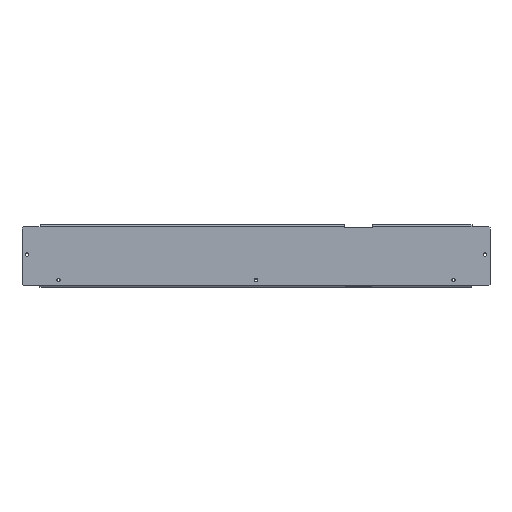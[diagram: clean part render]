
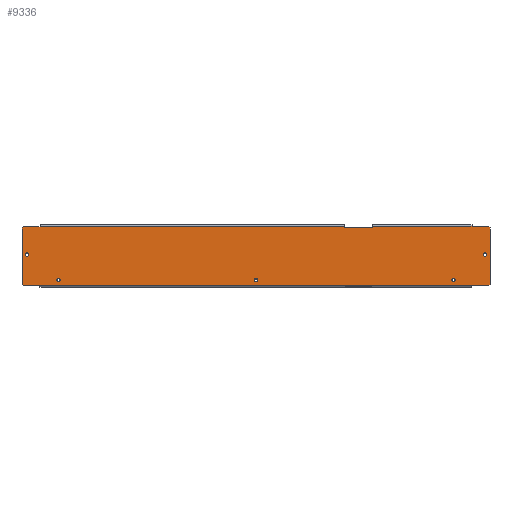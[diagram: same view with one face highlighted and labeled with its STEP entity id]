
A CAD part, top view. The second image highlights one B-rep face of the part: STEP entity #9336.
In plain terms, the highlighted planar face has unit normal (0, 0, 1).
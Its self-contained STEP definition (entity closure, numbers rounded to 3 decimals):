
#7161=CARTESIAN_POINT(' ',(309.75,-38.,0.));
#7162=VERTEX_POINT(' ',#7161);
#7176=CARTESIAN_POINT(' ',(312.5,-38.,0.));
#7181=DIRECTION(' ',(0.,-0.,1.));
#7186=DIRECTION(' ',(-1.,0.,0.));
#7191=AXIS2_PLACEMENT_3D(' ',#7176,#7181,#7186);
#7196=CIRCLE('',#7191,2.75);
#7201=CARTESIAN_POINT(' ',(315.25,-38.,0.));
#7202=VERTEX_POINT(' ',#7201);
#7206=EDGE_CURVE(' ',#7162,#7202,#7196,.T.);
#8311=CARTESIAN_POINT(' ',(312.5,-38.,0.));
#8316=DIRECTION(' ',(0.,0.,1.));
#8321=DIRECTION(' ',(1.,0.,0.));
#8326=AXIS2_PLACEMENT_3D(' ',#8311,#8316,#8321);
#8331=CIRCLE('',#8326,2.75);
#8336=EDGE_CURVE(' ',#7202,#7162,#8331,.T.);
#8361=DIRECTION(' ',(0.,0.,1.));
#8366=CARTESIAN_POINT(' ',(-370.5,-46.5,0.));
#8371=DIRECTION(' ',(1.,0.,-0.));
#8376=AXIS2_PLACEMENT_3D(' ',#8366,#8361,#8371);
#8381=PLANE('NONE',#8376);
#8386=CARTESIAN_POINT(' ',(184.5,45.5,0.));
#8391=DIRECTION(' ',(0.,1.,0.));
#8396=VECTOR(' ',#8391,1.);
#8401=LINE('',#8386,#8396);
#8406=CARTESIAN_POINT(' ',(184.5,45.5,0.));
#8407=VERTEX_POINT(' ',#8406);
#8411=CARTESIAN_POINT(' ',(184.5,47.4,0.));
#8412=VERTEX_POINT(' ',#8411);
#8416=EDGE_CURVE(' ',#8407,#8412,#8401,.T.);
#8421=ORIENTED_EDGE(' ',*,*,#8416,.F.);
#8426=CARTESIAN_POINT(' ',(139.5,45.5,0.));
#8431=DIRECTION(' ',(1.,0.,0.));
#8436=VECTOR(' ',#8431,1.);
#8441=LINE('',#8426,#8436);
#8446=CARTESIAN_POINT(' ',(139.5,45.5,0.));
#8447=VERTEX_POINT(' ',#8446);
#8451=EDGE_CURVE(' ',#8447,#8407,#8441,.T.);
#8456=ORIENTED_EDGE(' ',*,*,#8451,.F.);
#8461=CARTESIAN_POINT(' ',(139.5,47.4,0.));
#8466=DIRECTION(' ',(0.,-1.,0.));
#8471=VECTOR(' ',#8466,1.);
#8476=LINE('',#8461,#8471);
#8481=CARTESIAN_POINT(' ',(139.5,47.4,0.));
#8482=VERTEX_POINT(' ',#8481);
#8486=EDGE_CURVE(' ',#8482,#8447,#8476,.T.);
#8491=ORIENTED_EDGE(' ',*,*,#8486,.F.);
#8496=CARTESIAN_POINT(' ',(139.5,47.4,0.));
#8501=DIRECTION(' ',(-1.,0.,0.));
#8506=VECTOR(' ',#8501,1.);
#8511=LINE('',#8496,#8506);
#8516=CARTESIAN_POINT(' ',(-342.,47.4,0.));
#8517=VERTEX_POINT(' ',#8516);
#8521=EDGE_CURVE(' ',#8482,#8517,#8511,.T.);
#8526=ORIENTED_EDGE(' ',*,*,#8521,.T.);
#8531=CARTESIAN_POINT(' ',(-342.,47.4,0.));
#8536=DIRECTION(' ',(0.,-1.,0.));
#8541=VECTOR(' ',#8536,1.);
#8546=LINE('',#8531,#8541);
#8551=CARTESIAN_POINT(' ',(-342.,46.5,0.));
#8552=VERTEX_POINT(' ',#8551);
#8556=EDGE_CURVE(' ',#8517,#8552,#8546,.T.);
#8561=ORIENTED_EDGE(' ',*,*,#8556,.T.);
#8566=CARTESIAN_POINT(' ',(-342.,46.5,0.));
#8571=DIRECTION(' ',(-1.,0.,0.));
#8576=VECTOR(' ',#8571,1.);
#8581=LINE('',#8566,#8576);
#8586=CARTESIAN_POINT(' ',(-368.5,46.5,0.));
#8587=VERTEX_POINT(' ',#8586);
#8591=EDGE_CURVE(' ',#8552,#8587,#8581,.T.);
#8596=ORIENTED_EDGE(' ',*,*,#8591,.T.);
#8601=CARTESIAN_POINT(' ',(-368.5,46.5,0.));
#8606=DIRECTION(' ',(-0.707,-0.707,0.));
#8611=VECTOR(' ',#8606,1.);
#8616=LINE('',#8601,#8611);
#8621=CARTESIAN_POINT(' ',(-370.5,44.5,0.));
#8622=VERTEX_POINT(' ',#8621);
#8626=EDGE_CURVE(' ',#8587,#8622,#8616,.T.);
#8631=ORIENTED_EDGE(' ',*,*,#8626,.T.);
#8636=CARTESIAN_POINT(' ',(-370.5,44.5,0.));
#8641=DIRECTION(' ',(0.,-1.,0.));
#8646=VECTOR(' ',#8641,1.);
#8651=LINE('',#8636,#8646);
#8656=CARTESIAN_POINT(' ',(-370.5,-44.5,0.));
#8657=VERTEX_POINT(' ',#8656);
#8661=EDGE_CURVE(' ',#8622,#8657,#8651,.T.);
#8666=ORIENTED_EDGE(' ',*,*,#8661,.T.);
#8671=CARTESIAN_POINT(' ',(-370.5,-44.5,0.));
#8676=DIRECTION(' ',(0.707,-0.707,0.));
#8681=VECTOR(' ',#8676,1.);
#8686=LINE('',#8671,#8681);
#8691=CARTESIAN_POINT(' ',(-368.5,-46.5,0.));
#8692=VERTEX_POINT(' ',#8691);
#8696=EDGE_CURVE(' ',#8657,#8692,#8686,.T.);
#8701=ORIENTED_EDGE(' ',*,*,#8696,.T.);
#8706=CARTESIAN_POINT(' ',(-368.5,-46.5,0.));
#8711=DIRECTION(' ',(1.,0.,0.));
#8716=VECTOR(' ',#8711,1.);
#8721=LINE('',#8706,#8716);
#8726=CARTESIAN_POINT(' ',(368.5,-46.5,0.));
#8727=VERTEX_POINT(' ',#8726);
#8731=EDGE_CURVE(' ',#8692,#8727,#8721,.T.);
#8736=ORIENTED_EDGE(' ',*,*,#8731,.T.);
#8741=CARTESIAN_POINT(' ',(368.5,-46.5,0.));
#8746=DIRECTION(' ',(0.707,0.707,0.));
#8751=VECTOR(' ',#8746,1.);
#8756=LINE('',#8741,#8751);
#8761=CARTESIAN_POINT(' ',(370.5,-44.5,0.));
#8762=VERTEX_POINT(' ',#8761);
#8766=EDGE_CURVE(' ',#8727,#8762,#8756,.T.);
#8771=ORIENTED_EDGE(' ',*,*,#8766,.T.);
#8776=CARTESIAN_POINT(' ',(370.5,-44.5,0.));
#8781=DIRECTION(' ',(0.,1.,0.));
#8786=VECTOR(' ',#8781,1.);
#8791=LINE('',#8776,#8786);
#8796=CARTESIAN_POINT(' ',(370.5,44.5,0.));
#8797=VERTEX_POINT(' ',#8796);
#8801=EDGE_CURVE(' ',#8762,#8797,#8791,.T.);
#8806=ORIENTED_EDGE(' ',*,*,#8801,.T.);
#8811=CARTESIAN_POINT(' ',(370.5,44.5,0.));
#8816=DIRECTION(' ',(-0.707,0.707,0.));
#8821=VECTOR(' ',#8816,1.);
#8826=LINE('',#8811,#8821);
#8831=CARTESIAN_POINT(' ',(368.5,46.5,0.));
#8832=VERTEX_POINT(' ',#8831);
#8836=EDGE_CURVE(' ',#8797,#8832,#8826,.T.);
#8841=ORIENTED_EDGE(' ',*,*,#8836,.T.);
#8846=CARTESIAN_POINT(' ',(368.5,46.5,0.));
#8851=DIRECTION(' ',(-1.,0.,0.));
#8856=VECTOR(' ',#8851,1.);
#8861=LINE('',#8846,#8856);
#8866=CARTESIAN_POINT(' ',(342.,46.5,0.));
#8867=VERTEX_POINT(' ',#8866);
#8871=EDGE_CURVE(' ',#8832,#8867,#8861,.T.);
#8876=ORIENTED_EDGE(' ',*,*,#8871,.T.);
#8881=CARTESIAN_POINT(' ',(342.,47.4,0.));
#8886=DIRECTION(' ',(0.,-1.,0.));
#8891=VECTOR(' ',#8886,1.);
#8896=LINE('',#8881,#8891);
#8901=CARTESIAN_POINT(' ',(342.,47.4,0.));
#8902=VERTEX_POINT(' ',#8901);
#8906=EDGE_CURVE(' ',#8902,#8867,#8896,.T.);
#8911=ORIENTED_EDGE(' ',*,*,#8906,.F.);
#8916=CARTESIAN_POINT(' ',(342.,47.4,0.));
#8921=DIRECTION(' ',(-1.,0.,0.));
#8926=VECTOR(' ',#8921,1.);
#8931=LINE('',#8916,#8926);
#8936=EDGE_CURVE(' ',#8902,#8412,#8931,.T.);
#8941=ORIENTED_EDGE(' ',*,*,#8936,.T.);
#8946=EDGE_LOOP(' ',(#8421,#8456,#8491,#8526,#8561,#8596,#8631,#8666,#8701,#8736,#8771,#8806,#8841,#8876,#8911,#8941));
#8951=FACE_OUTER_BOUND(' ',#8946,.T.);
#8956=ORIENTED_EDGE(' ',*,*,#8336,.F.);
#8961=ORIENTED_EDGE(' ',*,*,#7206,.F.);
#8966=EDGE_LOOP(' ',(#8956,#8961));
#8971=FACE_BOUND(' ',#8966,.T.);
#8976=CARTESIAN_POINT(' ',(0.,-38.,0.));
#8981=DIRECTION(' ',(0.,0.,1.));
#8986=DIRECTION(' ',(1.,0.,0.));
#8991=AXIS2_PLACEMENT_3D(' ',#8976,#8981,#8986);
#8996=CIRCLE('',#8991,2.75);
#9001=CARTESIAN_POINT(' ',(2.75,-38.,0.));
#9002=VERTEX_POINT(' ',#9001);
#9006=CARTESIAN_POINT(' ',(-2.75,-38.,0.));
#9007=VERTEX_POINT(' ',#9006);
#9011=EDGE_CURVE(' ',#9002,#9007,#8996,.T.);
#9016=ORIENTED_EDGE(' ',*,*,#9011,.F.);
#9021=CARTESIAN_POINT(' ',(0.,-38.,0.));
#9026=DIRECTION(' ',(0.,-0.,1.));
#9031=DIRECTION(' ',(-1.,0.,0.));
#9036=AXIS2_PLACEMENT_3D(' ',#9021,#9026,#9031);
#9041=CIRCLE('',#9036,2.75);
#9046=EDGE_CURVE(' ',#9007,#9002,#9041,.T.);
#9051=ORIENTED_EDGE(' ',*,*,#9046,.F.);
#9056=EDGE_LOOP(' ',(#9016,#9051));
#9061=FACE_BOUND(' ',#9056,.T.);
#9066=CARTESIAN_POINT(' ',(-312.5,-38.,0.));
#9071=DIRECTION(' ',(0.,0.,1.));
#9076=DIRECTION(' ',(1.,0.,0.));
#9081=AXIS2_PLACEMENT_3D(' ',#9066,#9071,#9076);
#9086=CIRCLE('',#9081,2.75);
#9091=CARTESIAN_POINT(' ',(-309.75,-38.,0.));
#9092=VERTEX_POINT(' ',#9091);
#9096=CARTESIAN_POINT(' ',(-315.25,-38.,0.));
#9097=VERTEX_POINT(' ',#9096);
#9101=EDGE_CURVE(' ',#9092,#9097,#9086,.T.);
#9106=ORIENTED_EDGE(' ',*,*,#9101,.F.);
#9111=CARTESIAN_POINT(' ',(-312.5,-38.,0.));
#9116=DIRECTION(' ',(0.,-0.,1.));
#9121=DIRECTION(' ',(-1.,0.,0.));
#9126=AXIS2_PLACEMENT_3D(' ',#9111,#9116,#9121);
#9131=CIRCLE('',#9126,2.75);
#9136=EDGE_CURVE(' ',#9097,#9092,#9131,.T.);
#9141=ORIENTED_EDGE(' ',*,*,#9136,.F.);
#9146=EDGE_LOOP(' ',(#9106,#9141));
#9151=FACE_BOUND(' ',#9146,.T.);
#9156=CARTESIAN_POINT(' ',(362.5,2.5,0.));
#9161=DIRECTION(' ',(0.,0.,1.));
#9166=DIRECTION(' ',(1.,0.,0.));
#9171=AXIS2_PLACEMENT_3D(' ',#9156,#9161,#9166);
#9176=CIRCLE('',#9171,2.75);
#9181=CARTESIAN_POINT(' ',(365.25,2.5,0.));
#9182=VERTEX_POINT(' ',#9181);
#9186=CARTESIAN_POINT(' ',(359.75,2.5,0.));
#9187=VERTEX_POINT(' ',#9186);
#9191=EDGE_CURVE(' ',#9182,#9187,#9176,.T.);
#9196=ORIENTED_EDGE(' ',*,*,#9191,.F.);
#9201=CARTESIAN_POINT(' ',(362.5,2.5,0.));
#9206=DIRECTION(' ',(0.,-0.,1.));
#9211=DIRECTION(' ',(-1.,0.,0.));
#9216=AXIS2_PLACEMENT_3D(' ',#9201,#9206,#9211);
#9221=CIRCLE('',#9216,2.75);
#9226=EDGE_CURVE(' ',#9187,#9182,#9221,.T.);
#9231=ORIENTED_EDGE(' ',*,*,#9226,.F.);
#9236=EDGE_LOOP(' ',(#9196,#9231));
#9241=FACE_BOUND(' ',#9236,.T.);
#9246=CARTESIAN_POINT(' ',(-362.5,2.5,0.));
#9251=DIRECTION(' ',(0.,0.,1.));
#9256=DIRECTION(' ',(1.,0.,0.));
#9261=AXIS2_PLACEMENT_3D(' ',#9246,#9251,#9256);
#9266=CIRCLE('',#9261,2.75);
#9271=CARTESIAN_POINT(' ',(-359.75,2.5,0.));
#9272=VERTEX_POINT(' ',#9271);
#9276=CARTESIAN_POINT(' ',(-365.25,2.5,0.));
#9277=VERTEX_POINT(' ',#9276);
#9281=EDGE_CURVE(' ',#9272,#9277,#9266,.T.);
#9286=ORIENTED_EDGE(' ',*,*,#9281,.F.);
#9291=CARTESIAN_POINT(' ',(-362.5,2.5,0.));
#9296=DIRECTION(' ',(0.,-0.,1.));
#9301=DIRECTION(' ',(-1.,0.,0.));
#9306=AXIS2_PLACEMENT_3D(' ',#9291,#9296,#9301);
#9311=CIRCLE('',#9306,2.75);
#9316=EDGE_CURVE(' ',#9277,#9272,#9311,.T.);
#9321=ORIENTED_EDGE(' ',*,*,#9316,.F.);
#9326=EDGE_LOOP(' ',(#9286,#9321));
#9331=FACE_BOUND(' ',#9326,.T.);
#9336=ADVANCED_FACE('NONE',(#8951,#8971,#9061,#9151,#9241,#9331),#8381,.T.);
